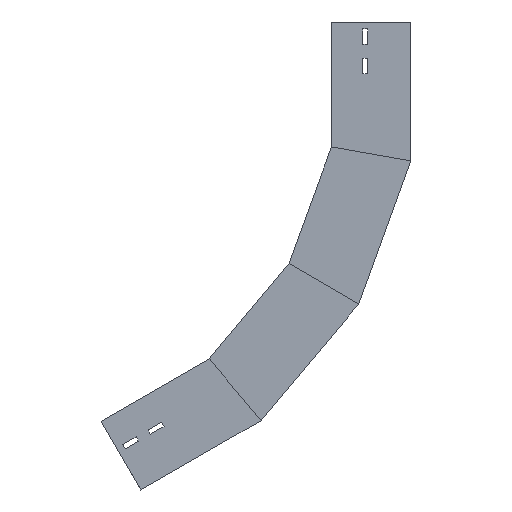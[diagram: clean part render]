
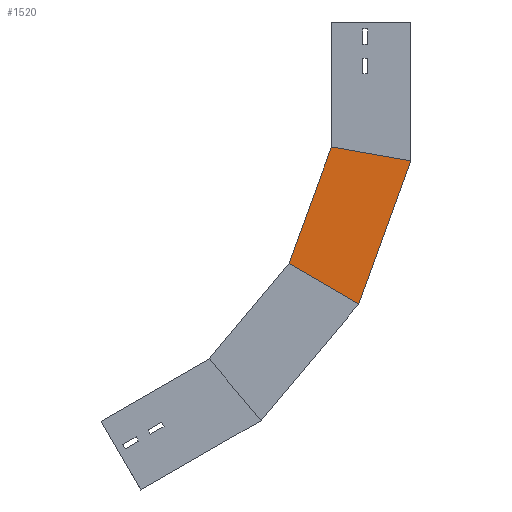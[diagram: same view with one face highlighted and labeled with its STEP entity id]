
A CAD part, left-side view. The second image highlights one B-rep face of the part: STEP entity #1520.
In plain terms, the highlighted planar face has unit normal (-1, 0, 0) as drawn and (1, 0, 0) by its records, which use the part's own axes.
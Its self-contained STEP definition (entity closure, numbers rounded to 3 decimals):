
#9 = CARTESIAN_POINT ( 'NONE',  ( 0., 73.705, -399.104 ) ) ;
#92 = AXIS2_PLACEMENT_3D ( 'NONE', #715, #1477, #984 ) ;
#102 = ORIENTED_EDGE ( 'NONE', *, *, #1660, .F. ) ;
#238 = CARTESIAN_POINT ( 'NONE',  ( 0., 236.28, -535.52 ) ) ;
#254 = VECTOR ( 'NONE', #1016, 1000. ) ;
#284 = VERTEX_POINT ( 'NONE', #1278 ) ;
#288 = EDGE_LOOP ( 'NONE', ( #1504, #1143, #1327, #102 ) ) ;
#313 = VERTEX_POINT ( 'NONE', #510 ) ;
#354 = DIRECTION ( 'NONE',  ( 0., -0.643, -0.766 ) ) ;
#510 = CARTESIAN_POINT ( 'NONE',  ( 0., 172.636, -341.986 ) ) ;
#534 = CARTESIAN_POINT ( 'NONE',  ( 0., 159.885, -326.79 ) ) ;
#651 = DIRECTION ( 'NONE',  ( 0., 0.643, -0.766 ) ) ;
#668 = LINE ( 'NONE', #534, #1674 ) ;
#714 = VERTEX_POINT ( 'NONE', #1550 ) ;
#715 = CARTESIAN_POINT ( 'NONE',  ( 0., 73.705, -399.104 ) ) ;
#852 = FACE_OUTER_BOUND ( 'NONE', #288, .T. ) ;
#893 = LINE ( 'NONE', #238, #1430 ) ;
#939 = EDGE_CURVE ( 'NONE', #313, #284, #668, .T. ) ;
#972 = VECTOR ( 'NONE', #651, 1000. ) ;
#984 = DIRECTION ( 'NONE',  ( 0., 0., 1. ) ) ;
#1016 = DIRECTION ( 'NONE',  ( 0., -0.866, -0.5 ) ) ;
#1058 = DIRECTION ( 'NONE',  ( 0., 0.643, -0.766 ) ) ;
#1110 = PLANE ( 'NONE',  #92 ) ;
#1143 = ORIENTED_EDGE ( 'NONE', *, *, #1615, .T. ) ;
#1167 = LINE ( 'NONE', #9, #972 ) ;
#1251 = VERTEX_POINT ( 'NONE', #1271 ) ;
#1259 = CARTESIAN_POINT ( 'NONE',  ( 0., 106.113, -380.393 ) ) ;
#1271 = CARTESIAN_POINT ( 'NONE',  ( 0., 212.226, -564.186 ) ) ;
#1278 = CARTESIAN_POINT ( 'NONE',  ( 0., 285.655, -476.677 ) ) ;
#1327 = ORIENTED_EDGE ( 'NONE', *, *, #1384, .T. ) ;
#1384 = EDGE_CURVE ( 'NONE', #714, #1251, #1167, .T. ) ;
#1430 = VECTOR ( 'NONE', #354, 1000. ) ;
#1477 = DIRECTION ( 'NONE',  ( -1., 0., 0. ) ) ;
#1504 = ORIENTED_EDGE ( 'NONE', *, *, #939, .F. ) ;
#1520 = ADVANCED_FACE ( 'NONE', ( #852 ), #1110, .F. ) ;
#1541 = LINE ( 'NONE', #1259, #254 ) ;
#1550 = CARTESIAN_POINT ( 'NONE',  ( 0., 73.705, -399.104 ) ) ;
#1615 = EDGE_CURVE ( 'NONE', #313, #714, #1541, .T. ) ;
#1660 = EDGE_CURVE ( 'NONE', #284, #1251, #893, .T. ) ;
#1674 = VECTOR ( 'NONE', #1058, 1000. ) ;
